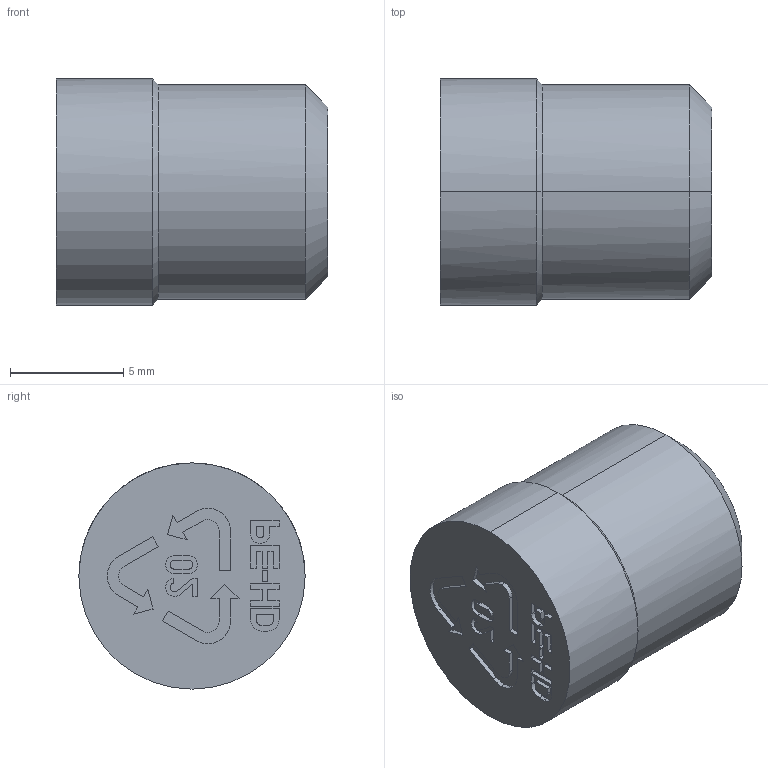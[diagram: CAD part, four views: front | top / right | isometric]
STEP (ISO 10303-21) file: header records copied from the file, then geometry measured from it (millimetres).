
FILE_DESCRIPTION(('CATIA V5 STEP Exchange'),'2;1');
FILE_NAME('C:\Users\Utente\Desktop\IO LAVORO\3D X SITO CF\X SITO\PLASTICA\CFMR\MSO210.stp','2021-03-26T13:41:42+00:00',('none'),('none'),'CATIA Version 5 Release 20 GA (IN-10)','CATIA V5 STEP AP203','none');
FILE_SCHEMA(('CONFIG_CONTROL_DESIGN'));
Length unit declared in the file: millimetre
Products named in the file (1): MSO210
Bounding box: 12 x 10 x 10 mm (x, y, z)
Volume: 810.8 mm3; surface area: 579.1 mm2
Topology: 1 solids, 1 shells, 137 faces, 372 edges, 249 vertices
Faces by surface type: plane 97, cylinder 32, cone 8
Entity records: 4339 total; most frequent: CARTESIAN_POINT 864, ORIENTED_EDGE 740, DIRECTION 629, EDGE_CURVE 370, VECTOR 286, LINE 286, VERTEX_POINT 249, AXIS2_PLACEMENT_3D 207
